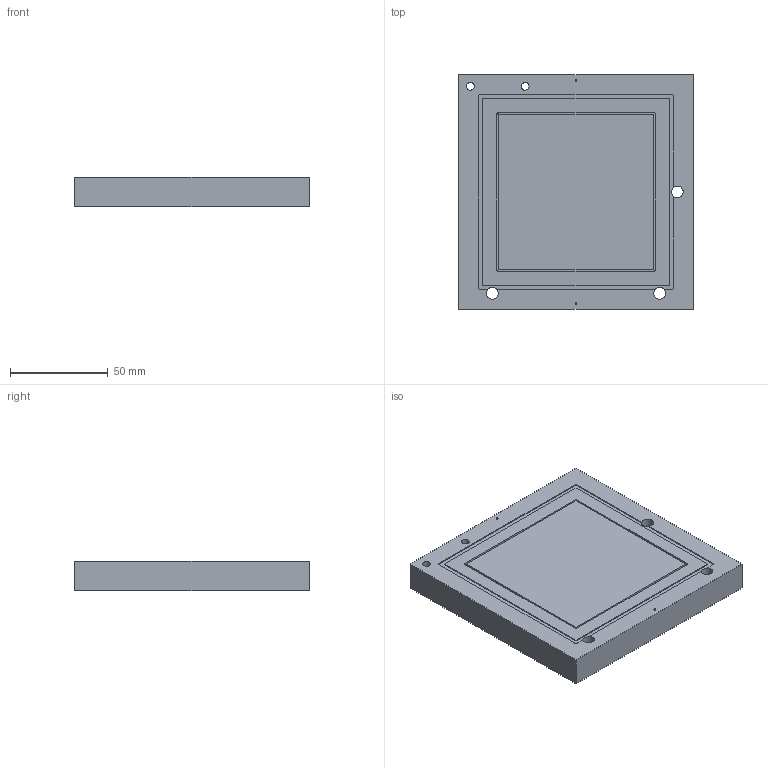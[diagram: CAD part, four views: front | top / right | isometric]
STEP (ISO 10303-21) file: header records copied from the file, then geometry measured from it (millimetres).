
FILE_DESCRIPTION(('CATIA V5 STEP Exchange'),'2;1');
FILE_NAME('D:\CATIA\ATLAS\Atlas_Maarten\atlas_upgrade_maarten\Ass.Module\STP\Outil_Languette_HV.stp','2010-09-02T14:38:15+00:00',('none'),('none'),'CATIA Version 5 Release 18 SP 4 (IN-10)','CATIA V5 STEP AP203','none');
FILE_SCHEMA(('CONFIG_CONTROL_DESIGN'));
Length unit declared in the file: millimetre
Products named in the file (1): Outil_Languette_HV
Bounding box: 120 x 120 x 15 mm (x, y, z)
Volume: 213231.9 mm3; surface area: 38413.9 mm2
Topology: 1 solids, 1 shells, 57 faces, 161 edges, 105 vertices
Faces by surface type: plane 29, cylinder 26, cone 2
Entity records: 1806 total; most frequent: CARTESIAN_POINT 329, ORIENTED_EDGE 318, DIRECTION 241, EDGE_CURVE 159, VERTEX_POINT 105, AXIS2_PLACEMENT_3D 100, VECTOR 100, LINE 100
